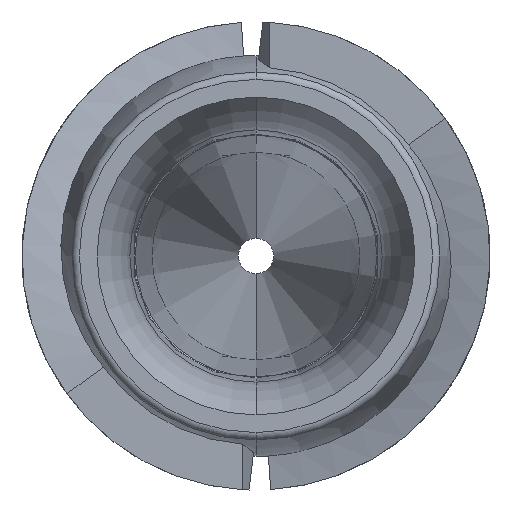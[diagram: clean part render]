
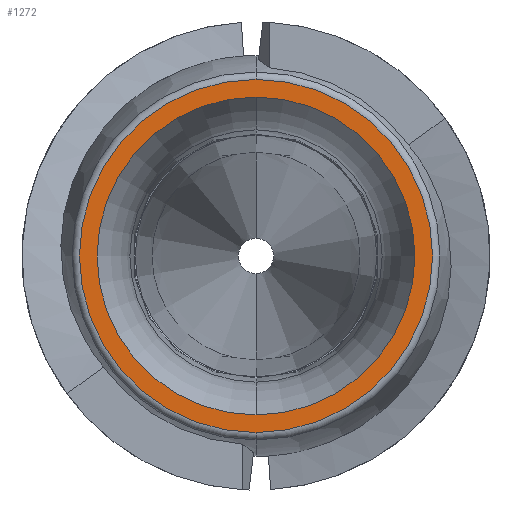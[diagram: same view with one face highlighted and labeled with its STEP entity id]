
A CAD part, front view. The second image highlights one B-rep face of the part: STEP entity #1272.
In plain terms, the highlighted planar face has unit normal (0, -1, 0).
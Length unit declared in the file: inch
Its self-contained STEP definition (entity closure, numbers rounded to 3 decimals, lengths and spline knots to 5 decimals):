
#226 = CIRCLE ( 'NONE', #1407, 0.11541 ) ;
#270 = DIRECTION ( 'NONE',  ( 0., -1., 0. ) ) ;
#342 = PLANE ( 'NONE',  #533 ) ;
#377 = CARTESIAN_POINT ( 'NONE',  ( 0., 0., 0. ) ) ;
#391 = EDGE_CURVE ( 'NONE', #2137, #464, #747, .T. ) ;
#415 = CARTESIAN_POINT ( 'NONE',  ( 0., 0., 0. ) ) ;
#454 = EDGE_LOOP ( 'NONE', ( #803, #993 ) ) ;
#464 = VERTEX_POINT ( 'NONE', #553 ) ;
#479 = DIRECTION ( 'NONE',  ( 0., 0., 1. ) ) ;
#480 = ORIENTED_EDGE ( 'NONE', *, *, #1799, .F. ) ;
#533 = AXIS2_PLACEMENT_3D ( 'NONE', #1658, #1830, #479 ) ;
#553 = CARTESIAN_POINT ( 'NONE',  ( 0., 0., 0.10388 ) ) ;
#625 = EDGE_CURVE ( 'NONE', #715, #1162, #226, .T. ) ;
#646 = FACE_OUTER_BOUND ( 'NONE', #454, .T. ) ;
#715 = VERTEX_POINT ( 'NONE', #820 ) ;
#747 = CIRCLE ( 'NONE', #1190, 0.10388 ) ;
#795 = CARTESIAN_POINT ( 'NONE',  ( 0., 0., 0. ) ) ;
#803 = ORIENTED_EDGE ( 'NONE', *, *, #625, .T. ) ;
#820 = CARTESIAN_POINT ( 'NONE',  ( 0., 0., 0.11541 ) ) ;
#993 = ORIENTED_EDGE ( 'NONE', *, *, #1573, .T. ) ;
#1085 = DIRECTION ( 'NONE',  ( 0., 0., -1. ) ) ;
#1111 = DIRECTION ( 'NONE',  ( 0., -1., 0. ) ) ;
#1158 = DIRECTION ( 'NONE',  ( 0., 0., 1. ) ) ;
#1162 = VERTEX_POINT ( 'NONE', #1668 ) ;
#1185 = CIRCLE ( 'NONE', #1290, 0.10388 ) ;
#1190 = AXIS2_PLACEMENT_3D ( 'NONE', #415, #1698, #1198 ) ;
#1198 = DIRECTION ( 'NONE',  ( 0., 0., -1. ) ) ;
#1272 = ADVANCED_FACE ( 'NONE', ( #646, #1489 ), #342, .F. ) ;
#1273 = CARTESIAN_POINT ( 'NONE',  ( 0., 0., 0. ) ) ;
#1290 = AXIS2_PLACEMENT_3D ( 'NONE', #377, #270, #1085 ) ;
#1407 = AXIS2_PLACEMENT_3D ( 'NONE', #1273, #1111, #1773 ) ;
#1440 = CIRCLE ( 'NONE', #2100, 0.11541 ) ;
#1489 = FACE_BOUND ( 'NONE', #1798, .T. ) ;
#1573 = EDGE_CURVE ( 'NONE', #1162, #715, #1440, .T. ) ;
#1658 = CARTESIAN_POINT ( 'NONE',  ( 0.11912, 0., 0. ) ) ;
#1668 = CARTESIAN_POINT ( 'NONE',  ( 0., 0., -0.11541 ) ) ;
#1698 = DIRECTION ( 'NONE',  ( 0., -1., 0. ) ) ;
#1773 = DIRECTION ( 'NONE',  ( 0., 0., 1. ) ) ;
#1781 = DIRECTION ( 'NONE',  ( 0., -1., 0. ) ) ;
#1798 = EDGE_LOOP ( 'NONE', ( #1991, #480 ) ) ;
#1799 = EDGE_CURVE ( 'NONE', #464, #2137, #1185, .T. ) ;
#1830 = DIRECTION ( 'NONE',  ( 0., 1., 0. ) ) ;
#1991 = ORIENTED_EDGE ( 'NONE', *, *, #391, .F. ) ;
#2053 = CARTESIAN_POINT ( 'NONE',  ( 0., 0., -0.10388 ) ) ;
#2100 = AXIS2_PLACEMENT_3D ( 'NONE', #795, #1781, #1158 ) ;
#2137 = VERTEX_POINT ( 'NONE', #2053 ) ;
